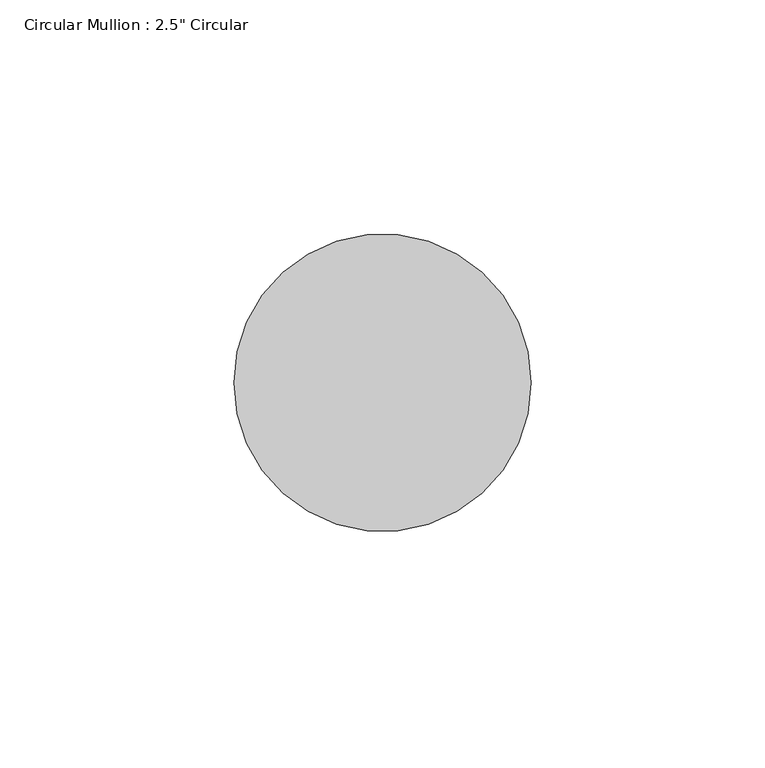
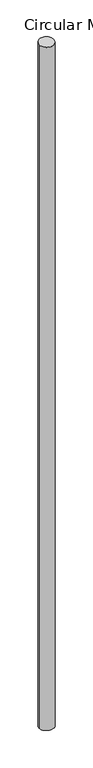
"""IFC4 building model written with IfcOpenShell, lengths in millimetres: member geometry."""

from ifc_helpers import new_model, si_unit, frame, origin, origin_with_axes, place, context, project, spatial, ellipse_curve, source, transform, mapped, element, save
from ifc_brep_helpers import plane_surface, cylinder_surface, advanced_brep


def member_4d557db2(model_context):
    return source(origin(), model_context, "Body", "AdvancedBrep", [
        advanced_brep(
        [(-31.75, 0.0, -0.2564277), (31.75, 0.0, 0.2564277), (31.75, 0.0, -3060.7277353), (-31.75, 0.0, -3060.2991335)],
        [
            (0, 1, ellipse_curve(frame((0.0, 0.0, 0.0), z_axis=(0.008060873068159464, 0.061577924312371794, -0.9980697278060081), x_axis=(0.12954730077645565, 0.98962653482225, 0.06210328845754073)), 31.8114047, 31.75)),
            (1, 2),
            (2, 3, ellipse_curve(frame((0.0, 0.0, -3060.5134344), z_axis=(0.0067356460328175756, 0.06399661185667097, 0.9979273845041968), x_axis=(-0.10445493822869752, -0.9924455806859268, 0.06435009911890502)), 31.8159422, 31.75)),
            (3, 0),
            (1, 0, ellipse_curve(frame((0.0, 0.0, 0.0), z_axis=(0.008060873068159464, 0.061577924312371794, -0.9980697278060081), x_axis=(0.12954730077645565, 0.98962653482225, 0.06210328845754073)), 31.8114047, 31.75)),
            (3, 2, ellipse_curve(frame((0.0, 0.0, -3060.5134344), z_axis=(0.0067356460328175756, 0.06399661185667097, 0.9979273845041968), x_axis=(-0.10445493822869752, -0.9924455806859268, 0.06435009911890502)), 31.8159422, 31.75)),
        ],
        [
            cylinder_surface(origin_with_axes(), 31.75),
            plane_surface(frame((302.2215376, -39.5623834, 0.0), z_axis=(-0.008060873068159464, -0.061577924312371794, 0.9980697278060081), x_axis=(-0.1295473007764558, -0.9896265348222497, -0.06210328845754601))),
            plane_surface(frame((303.125676, -31.9039899, -3060.5134344), z_axis=(-0.006735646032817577, -0.06399661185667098, -0.997927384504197), x_axis=(-0.1044549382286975, -0.9924455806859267, 0.06435009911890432))),
        ],
        [
            (0, [[1, 2, 3, 4]]),
            (0, [[5, -4, 6, -2]]),
            (1, [[-1, -5]]),
            (2, [[-6, -3]]),
        ],
    ),
    ])


if __name__ == "__main__":
    model = new_model("IFC4")
    model_context = context("Model", 3, world=origin())
    ifc_project = project(units=[si_unit("LENGTHUNIT", "METRE", prefix="MILLI")], contexts=[model_context])
    site = spatial("IfcSite", under=ifc_project)
    building = spatial("IfcBuilding", under=site)
    placement = place(None, origin())
    member_shape = member_4d557db2(model_context)
    element("IfcMember", 1, ObjectType="Circular Mullion : 2.5\" Circular", at=placement, inside=building, context=model_context, shape_type="MappedRepresentation", body=[
        mapped(member_shape, transform((0.0, 0.0, 0.0), x_axis=(1.0, 0.0, 0.0), y_axis=(0.0, 1.0, 0.0), z_axis=(0.0, 0.0, 1.0))),
    ])
    save(model, "model.ifc")
